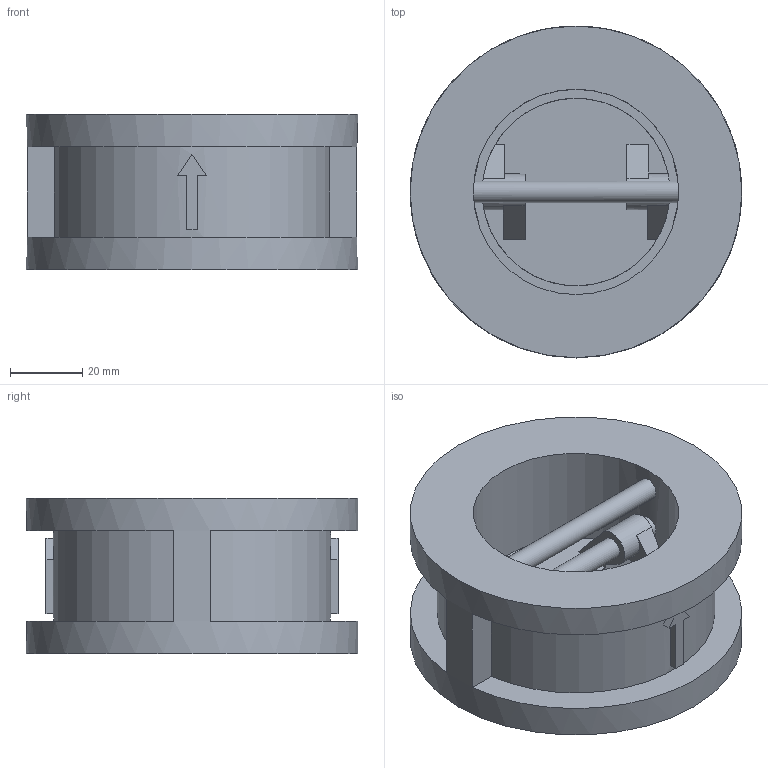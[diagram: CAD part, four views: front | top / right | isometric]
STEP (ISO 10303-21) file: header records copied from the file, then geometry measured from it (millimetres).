
FILE_DESCRIPTION(('STEP AP203'), '1');
FILE_NAME('孰囡囗 钺疣蝽 溻篚耱忸瘅囹 戾骠豚眦邂 010C DN40', '', ('UNSPECIFIED'), ('UNSPECIFIED'), 'ASCON STEP Converter 1.6', 'ASCON Math Kernel', '');
FILE_SCHEMA(('CONFIG_CONTROL_DESIGN'));
Length unit declared in the file: millimetre
Bounding box: 92 x 92 x 43 mm (x, y, z)
Volume: 163824.2 mm3; surface area: 40771 mm2
Topology: 1 solids, 1 shells, 73 faces, 201 edges, 132 vertices
Faces by surface type: plane 55, cylinder 16, cone 2
Full cylindrical faces by diameter (mm): 6 x4, 57 x1, 92 x1
Entity records: 3596 total; most frequent: CARTESIAN_POINT 1129, ORIENTED_EDGE 388, DIRECTION 364, EDGE_CURVE 194, VERTEX_POINT 132, LINE 124, VECTOR 124, AXIS2_PLACEMENT_3D 120
